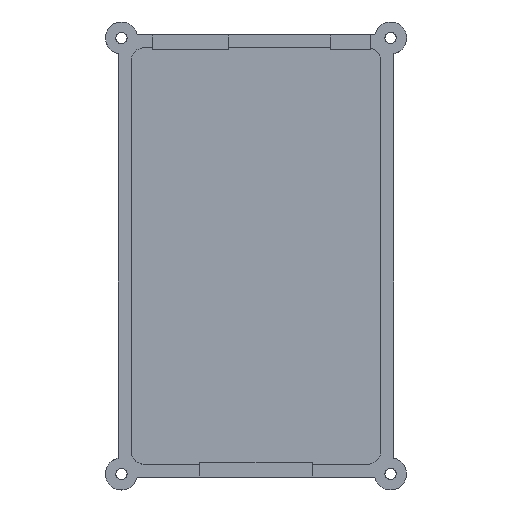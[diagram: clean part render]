
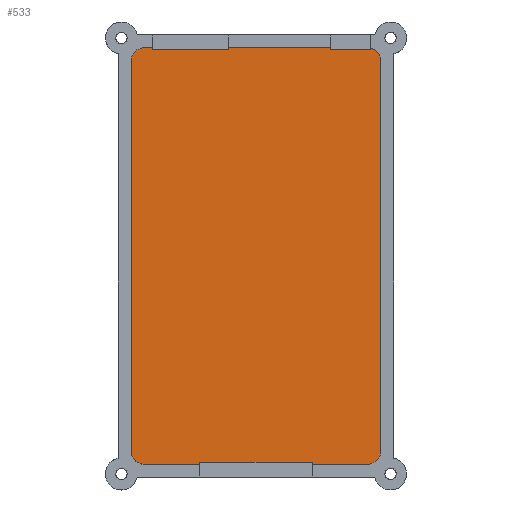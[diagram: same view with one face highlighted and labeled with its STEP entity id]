
A CAD part, top view. The second image highlights one B-rep face of the part: STEP entity #533.
In plain terms, the highlighted planar face has unit normal (0, 0, 1).
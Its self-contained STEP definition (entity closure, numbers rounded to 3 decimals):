
#11=DIRECTION('',(0.0,0.0,1.0));
#12=DIRECTION('',(1.0,0.0,0.0));
#20=DIRECTION('',(-1.0,0.0,0.0));
#78=DIRECTION('',(0.0,-1.0,0.0));
#278=DIRECTION('',(0.0,1.0,0.0));
#394=DIRECTION('',(-1.,0.0,0.0));
#395=CARTESIAN_POINT('',(62.1,103.8,2.8));
#396=AXIS2_PLACEMENT_3D('',#395,#11,#394);
#397=PLANE('',#396);
#398=DIRECTION('',(-1.0,0.,0.0));
#399=VECTOR('',#398,13.9);
#400=CARTESIAN_POINT('',(16.9,-0.3,2.8));
#401=LINE('',#400,#399);
#402=CARTESIAN_POINT('',(3.,-0.3,2.8));
#403=VERTEX_POINT('',#402);
#404=VERTEX_POINT('',#400);
#405=EDGE_CURVE('',#404,#403,#401,.T.);
#406=ORIENTED_EDGE('',*,*,#405,.F.);
#407=CARTESIAN_POINT('',(-0.3,3.,2.8));
#408=CARTESIAN_POINT('',(-0.3,2.371,2.8));
#409=CARTESIAN_POINT('',(0.183,1.15,2.8));
#410=CARTESIAN_POINT('',(1.15,0.183,2.8));
#411=CARTESIAN_POINT('',(2.371,-0.3,2.8));
#412=(BOUNDED_CURVE()B_SPLINE_CURVE(2,(#402,#411,#410,#409,#408,#407),.UNSPECIFIED.,.U.,.U.)B_SPLINE_CURVE_WITH_KNOTS((3,1,1,1,3),(0.0,0.25,0.5,0.75,1.0),.UNSPECIFIED.)CURVE()GEOMETRIC_REPRESENTATION_ITEM()RATIONAL_B_SPLINE_CURVE((1.0,0.927,0.854,0.854,0.927,1.0))REPRESENTATION_ITEM(''));
#413=CARTESIAN_POINT('',(-0.3,3.,2.8));
#414=VERTEX_POINT('',#413);
#415=EDGE_CURVE('',#403,#414,#412,.T.);
#416=ORIENTED_EDGE('',*,*,#415,.F.);
#417=DIRECTION('',(0.,1.0,0.0));
#418=VECTOR('',#417,97.5);
#419=LINE('',#413,#418);
#420=CARTESIAN_POINT('',(-0.3,100.5,2.8));
#421=VERTEX_POINT('',#420);
#422=EDGE_CURVE('',#414,#421,#419,.T.);
#423=ORIENTED_EDGE('',*,*,#422,.F.);
#424=CARTESIAN_POINT('',(3.,103.8,2.8));
#425=CARTESIAN_POINT('',(2.371,103.8,2.8));
#426=CARTESIAN_POINT('',(1.15,103.317,2.8));
#427=CARTESIAN_POINT('',(0.183,102.35,2.8));
#428=CARTESIAN_POINT('',(-0.3,101.129,2.8));
#429=(BOUNDED_CURVE()B_SPLINE_CURVE(2,(#420,#428,#427,#426,#425,#424),.UNSPECIFIED.,.U.,.U.)B_SPLINE_CURVE_WITH_KNOTS((3,1,1,1,3),(0.0,0.25,0.5,0.75,1.0),.UNSPECIFIED.)CURVE()GEOMETRIC_REPRESENTATION_ITEM()RATIONAL_B_SPLINE_CURVE((1.0,0.927,0.854,0.854,0.927,1.0))REPRESENTATION_ITEM(''));
#430=CARTESIAN_POINT('',(3.,103.8,2.8));
#431=VERTEX_POINT('',#430);
#432=EDGE_CURVE('',#421,#431,#429,.T.);
#433=ORIENTED_EDGE('',*,*,#432,.F.);
#434=VECTOR('',#12,2.);
#435=LINE('',#430,#434);
#436=CARTESIAN_POINT('',(5.0,103.8,2.8));
#437=VERTEX_POINT('',#436);
#438=EDGE_CURVE('',#431,#437,#435,.T.);
#439=ORIENTED_EDGE('',*,*,#438,.F.);
#440=VECTOR('',#78,0.5);
#441=LINE('',#436,#440);
#442=CARTESIAN_POINT('',(5.0,103.3,2.8));
#443=VERTEX_POINT('',#442);
#444=EDGE_CURVE('',#437,#443,#441,.T.);
#445=ORIENTED_EDGE('',*,*,#444,.F.);
#446=VECTOR('',#12,19.0);
#447=LINE('',#442,#446);
#448=CARTESIAN_POINT('',(24.0,103.3,2.8));
#449=VERTEX_POINT('',#448);
#450=EDGE_CURVE('',#443,#449,#447,.T.);
#451=ORIENTED_EDGE('',*,*,#450,.F.);
#452=VECTOR('',#278,0.5);
#453=LINE('',#448,#452);
#454=CARTESIAN_POINT('',(24.0,103.8,2.8));
#455=VERTEX_POINT('',#454);
#456=EDGE_CURVE('',#449,#455,#453,.T.);
#457=ORIENTED_EDGE('',*,*,#456,.F.);
#458=VECTOR('',#12,25.6);
#459=LINE('',#454,#458);
#460=CARTESIAN_POINT('',(49.6,103.8,2.8));
#461=VERTEX_POINT('',#460);
#462=EDGE_CURVE('',#455,#461,#459,.T.);
#463=ORIENTED_EDGE('',*,*,#462,.F.);
#464=LINE('',#460,#440);
#465=CARTESIAN_POINT('',(49.6,103.3,2.8));
#466=VERTEX_POINT('',#465);
#467=EDGE_CURVE('',#461,#466,#464,.T.);
#468=ORIENTED_EDGE('',*,*,#467,.F.);
#469=VECTOR('',#12,10.0);
#470=LINE('',#465,#469);
#471=CARTESIAN_POINT('',(59.6,103.3,2.8));
#472=VERTEX_POINT('',#471);
#473=EDGE_CURVE('',#466,#472,#470,.T.);
#474=ORIENTED_EDGE('',*,*,#473,.F.);
#475=VECTOR('',#278,0.402);
#476=LINE('',#471,#475);
#477=CARTESIAN_POINT('',(59.6,103.702,2.8));
#478=VERTEX_POINT('',#477);
#479=EDGE_CURVE('',#472,#478,#476,.T.);
#480=ORIENTED_EDGE('',*,*,#479,.F.);
#481=CARTESIAN_POINT('',(62.1,100.5,2.8));
#482=CARTESIAN_POINT('',(62.1,101.036,2.8));
#483=CARTESIAN_POINT('',(61.75,102.083,2.8));
#484=CARTESIAN_POINT('',(61.051,102.979,2.8));
#485=CARTESIAN_POINT('',(60.12,103.572,2.8));
#486=(BOUNDED_CURVE()B_SPLINE_CURVE(2,(#477,#485,#484,#483,#482,#481),.UNSPECIFIED.,.U.,.U.)B_SPLINE_CURVE_WITH_KNOTS((3,1,1,1,3),(0.0,0.25,0.5,0.75,1.0),.UNSPECIFIED.)CURVE()GEOMETRIC_REPRESENTATION_ITEM()RATIONAL_B_SPLINE_CURVE((1.0,0.947,0.894,0.894,0.947,1.0))REPRESENTATION_ITEM(''));
#487=CARTESIAN_POINT('',(62.1,100.5,2.8));
#488=VERTEX_POINT('',#487);
#489=EDGE_CURVE('',#478,#488,#486,.T.);
#490=ORIENTED_EDGE('',*,*,#489,.F.);
#491=DIRECTION('',(0.,-1.0,0.0));
#492=VECTOR('',#491,97.5);
#493=LINE('',#487,#492);
#494=CARTESIAN_POINT('',(62.1,3.,2.8));
#495=VERTEX_POINT('',#494);
#496=EDGE_CURVE('',#488,#495,#493,.T.);
#497=ORIENTED_EDGE('',*,*,#496,.F.);
#498=CARTESIAN_POINT('',(58.8,-0.3,2.8));
#499=CARTESIAN_POINT('',(59.429,-0.3,2.8));
#500=CARTESIAN_POINT('',(60.65,0.183,2.8));
#501=CARTESIAN_POINT('',(61.617,1.15,2.8));
#502=CARTESIAN_POINT('',(62.1,2.371,2.8));
#503=(BOUNDED_CURVE()B_SPLINE_CURVE(2,(#494,#502,#501,#500,#499,#498),.UNSPECIFIED.,.U.,.U.)B_SPLINE_CURVE_WITH_KNOTS((3,1,1,1,3),(0.0,0.25,0.5,0.75,1.0),.UNSPECIFIED.)CURVE()GEOMETRIC_REPRESENTATION_ITEM()RATIONAL_B_SPLINE_CURVE((1.0,0.927,0.854,0.854,0.927,1.0))REPRESENTATION_ITEM(''));
#504=CARTESIAN_POINT('',(58.8,-0.3,2.8));
#505=VERTEX_POINT('',#504);
#506=EDGE_CURVE('',#495,#505,#503,.T.);
#507=ORIENTED_EDGE('',*,*,#506,.F.);
#508=DIRECTION('',(-1.0,0.,0.0));
#509=VECTOR('',#508,13.9);
#510=LINE('',#504,#509);
#511=CARTESIAN_POINT('',(44.9,-0.3,2.8));
#512=VERTEX_POINT('',#511);
#513=EDGE_CURVE('',#505,#512,#510,.T.);
#514=ORIENTED_EDGE('',*,*,#513,.F.);
#515=VECTOR('',#278,0.5);
#516=LINE('',#511,#515);
#517=CARTESIAN_POINT('',(44.9,0.2,2.8));
#518=VERTEX_POINT('',#517);
#519=EDGE_CURVE('',#512,#518,#516,.T.);
#520=ORIENTED_EDGE('',*,*,#519,.F.);
#521=VECTOR('',#20,28.0);
#522=LINE('',#517,#521);
#523=CARTESIAN_POINT('',(16.9,0.2,2.8));
#524=VERTEX_POINT('',#523);
#525=EDGE_CURVE('',#518,#524,#522,.T.);
#526=ORIENTED_EDGE('',*,*,#525,.F.);
#527=VECTOR('',#78,0.5);
#528=LINE('',#523,#527);
#529=EDGE_CURVE('',#524,#404,#528,.T.);
#530=ORIENTED_EDGE('',*,*,#529,.F.);
#531=EDGE_LOOP('',(#530,#526,#520,#514,#507,#497,#490,#480,#474,#468,#463,#457,#451,#445,#439,#433,#423,#416,#406));
#532=FACE_BOUND('',#531,.T.);
#533=ADVANCED_FACE('',(#532),#397,.T.);
